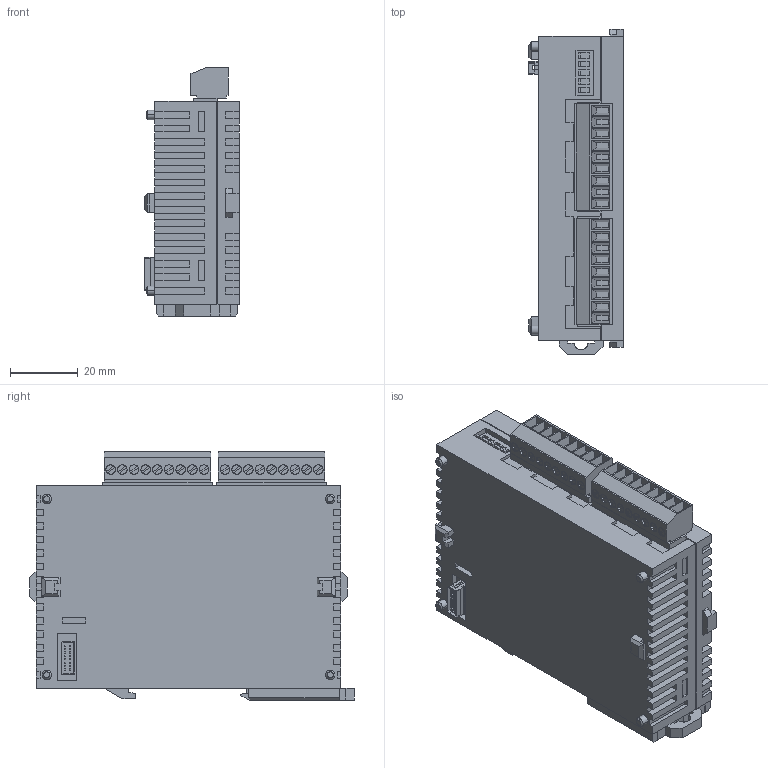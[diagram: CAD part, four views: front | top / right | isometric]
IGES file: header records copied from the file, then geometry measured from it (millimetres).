
Global section: organization: PanasonicElectricWorks; date: 080828.133546; units: millimetre
Bounding box: 28 x 96.05 x 73.45 mm (x, y, z)
Surface area: 26194.4 mm2 (no closed solid volume)
Topology: 0 solids, 0 shells, 927 faces, 6590 edges, 6588 vertices
Faces by surface type: bspline 850, revolution 77
